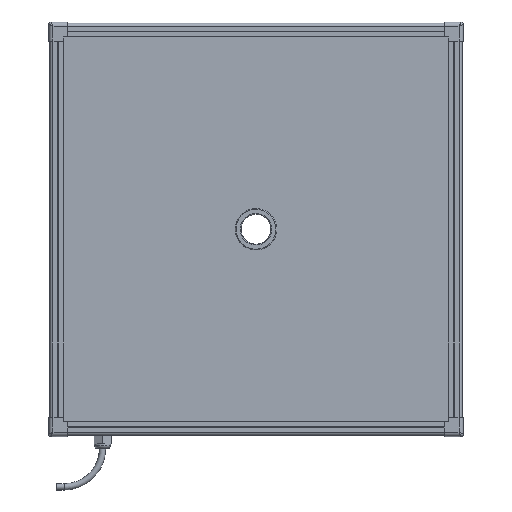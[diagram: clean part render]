
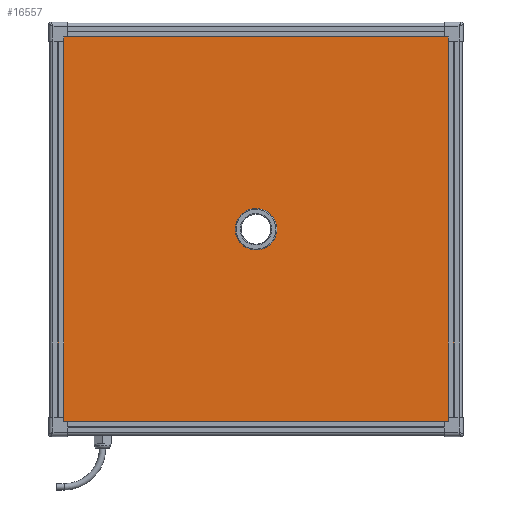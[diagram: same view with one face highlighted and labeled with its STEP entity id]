
A CAD part, top view. The second image highlights one B-rep face of the part: STEP entity #16557.
In plain terms, the highlighted planar face has unit normal (0, 0, 1).
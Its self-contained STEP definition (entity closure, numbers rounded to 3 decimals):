
#1143 = FACE_OUTER_BOUND ( 'NONE', #24880, .T. ) ;
#1458 = LINE ( 'NONE', #49925, #10261 ) ;
#2574 = DIRECTION ( 'NONE',  ( 0., 0., -1. ) ) ;
#3135 = VERTEX_POINT ( 'NONE', #54482 ) ;
#3435 = DIRECTION ( 'NONE',  ( 0., -1., 0. ) ) ;
#4038 = VECTOR ( 'NONE', #43536, 1000. ) ;
#4858 = AXIS2_PLACEMENT_3D ( 'NONE', #25855, #22246, #17333 ) ;
#6117 = CARTESIAN_POINT ( 'NONE',  ( 118.686, -533.25, 38.587 ) ) ;
#7236 = ORIENTED_EDGE ( 'NONE', *, *, #10581, .F. ) ;
#7729 = CARTESIAN_POINT ( 'NONE',  ( -144.814, -291.6, 38.587 ) ) ;
#8371 = DIRECTION ( 'NONE',  ( 0., 0., 1. ) ) ;
#10261 = VECTOR ( 'NONE', #32826, 1000. ) ;
#10581 = EDGE_CURVE ( 'NONE', #39165, #20800, #11524, .T. ) ;
#10797 = CARTESIAN_POINT ( 'NONE',  ( 118.686, -6.25, 38.587 ) ) ;
#10911 = VECTOR ( 'NONE', #35528, 1000. ) ;
#10979 = CARTESIAN_POINT ( 'NONE',  ( -144.814, -247.9, 38.587 ) ) ;
#11317 = FACE_BOUND ( 'NONE', #15199, .T. ) ;
#11524 = CIRCLE ( 'NONE', #4858, 21.85 ) ;
#12182 = CARTESIAN_POINT ( 'NONE',  ( -144.814, -269.75, 38.587 ) ) ;
#12790 = ORIENTED_EDGE ( 'NONE', *, *, #15064, .F. ) ;
#15064 = EDGE_CURVE ( 'NONE', #20800, #39165, #44672, .T. ) ;
#15199 = EDGE_LOOP ( 'NONE', ( #12790, #7236 ) ) ;
#15247 = CARTESIAN_POINT ( 'NONE',  ( -408.314, -533.25, 38.587 ) ) ;
#16324 = ORIENTED_EDGE ( 'NONE', *, *, #20667, .T. ) ;
#16557 = ADVANCED_FACE ( 'NONE', ( #1143, #11317 ), #45833, .F. ) ;
#17333 = DIRECTION ( 'NONE',  ( 0., -1., 0. ) ) ;
#17638 = LINE ( 'NONE', #22042, #4038 ) ;
#20457 = EDGE_CURVE ( 'NONE', #49984, #3135, #1458, .T. ) ;
#20667 = EDGE_CURVE ( 'NONE', #23426, #49984, #27139, .T. ) ;
#20800 = VERTEX_POINT ( 'NONE', #7729 ) ;
#21471 = AXIS2_PLACEMENT_3D ( 'NONE', #28540, #2574, #45461 ) ;
#22042 = CARTESIAN_POINT ( 'NONE',  ( -408.314, -533.25, 38.587 ) ) ;
#22246 = DIRECTION ( 'NONE',  ( 0., 0., 1. ) ) ;
#22591 = LINE ( 'NONE', #39450, #54936 ) ;
#23426 = VERTEX_POINT ( 'NONE', #6117 ) ;
#23483 = ORIENTED_EDGE ( 'NONE', *, *, #24430, .T. ) ;
#24430 = EDGE_CURVE ( 'NONE', #3135, #48775, #22591, .T. ) ;
#24880 = EDGE_LOOP ( 'NONE', ( #16324, #45333, #23483, #27238 ) ) ;
#25855 = CARTESIAN_POINT ( 'NONE',  ( -144.814, -269.75, 38.587 ) ) ;
#27139 = LINE ( 'NONE', #49079, #10911 ) ;
#27238 = ORIENTED_EDGE ( 'NONE', *, *, #33777, .T. ) ;
#27500 = AXIS2_PLACEMENT_3D ( 'NONE', #12182, #8371, #3435 ) ;
#28540 = CARTESIAN_POINT ( 'NONE',  ( 118.686, -6.25, 38.587 ) ) ;
#32826 = DIRECTION ( 'NONE',  ( -1., 0., 0. ) ) ;
#33777 = EDGE_CURVE ( 'NONE', #48775, #23426, #17638, .T. ) ;
#35528 = DIRECTION ( 'NONE',  ( 0., 1., 0. ) ) ;
#39165 = VERTEX_POINT ( 'NONE', #10979 ) ;
#39450 = CARTESIAN_POINT ( 'NONE',  ( -408.314, -533.25, 38.587 ) ) ;
#43536 = DIRECTION ( 'NONE',  ( 1., 0., 0. ) ) ;
#44672 = CIRCLE ( 'NONE', #27500, 21.85 ) ;
#45333 = ORIENTED_EDGE ( 'NONE', *, *, #20457, .T. ) ;
#45461 = DIRECTION ( 'NONE',  ( 0., 1., 0. ) ) ;
#45833 = PLANE ( 'NONE',  #21471 ) ;
#48691 = DIRECTION ( 'NONE',  ( 0., -1., 0. ) ) ;
#48775 = VERTEX_POINT ( 'NONE', #15247 ) ;
#49079 = CARTESIAN_POINT ( 'NONE',  ( 118.686, -533.25, 38.587 ) ) ;
#49925 = CARTESIAN_POINT ( 'NONE',  ( -408.314, -6.25, 38.587 ) ) ;
#49984 = VERTEX_POINT ( 'NONE', #10797 ) ;
#54482 = CARTESIAN_POINT ( 'NONE',  ( -408.314, -6.25, 38.587 ) ) ;
#54936 = VECTOR ( 'NONE', #48691, 1000. ) ;
